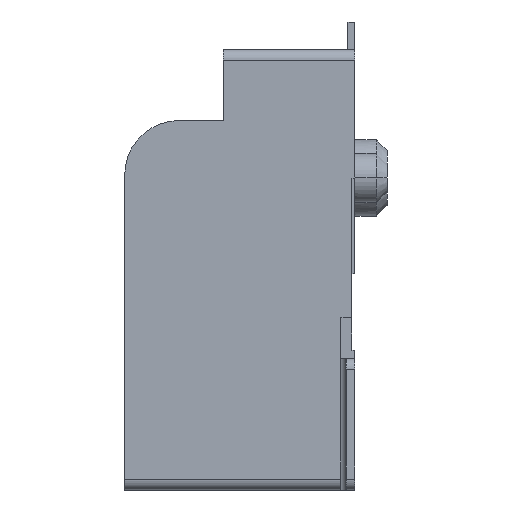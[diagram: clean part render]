
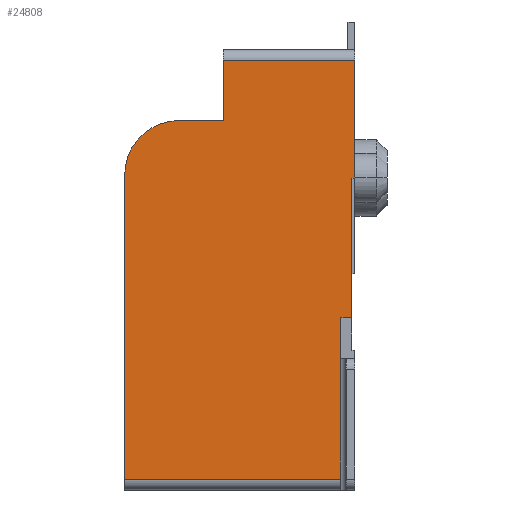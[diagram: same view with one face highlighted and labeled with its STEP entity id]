
A CAD part, left-side view. The second image highlights one B-rep face of the part: STEP entity #24808.
In plain terms, the highlighted planar face has unit normal (-1, 0, 0).
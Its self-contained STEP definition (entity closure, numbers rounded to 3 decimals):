
#1=CARTESIAN_POINT('',(-11.,3.2,1.8));
#2=DIRECTION('',(1.,0.,0.));
#3=DIRECTION('',(0.,1.,0.));
#4=AXIS2_PLACEMENT_3D('',#1,#2,#3);
#563=DIRECTION('',(0.,0.,-1.));
#564=VECTOR('',#563,2.95);
#565=CARTESIAN_POINT('',(-11.,0.25,-0.8));
#566=LINE('',#565,#564);
#4281=DIRECTION('',(0.,0.,-1.));
#4282=VECTOR('',#4281,2.55);
#4283=CARTESIAN_POINT('',(-11.,0.05,1.75));
#4284=LINE('',#4283,#4282);
#4311=DIRECTION('',(0.,0.,-1.));
#4312=VECTOR('',#4311,2.15);
#4313=CARTESIAN_POINT('',(-11.,0.,3.9));
#4314=LINE('',#4313,#4312);
#4397=DIRECTION('',(0.,-1.,0.));
#4398=VECTOR('',#4397,0.05);
#4399=CARTESIAN_POINT('',(-11.,0.05,1.75));
#4400=LINE('',#4399,#4398);
#4409=DIRECTION('',(0.,1.,0.));
#4410=VECTOR('',#4409,2.4);
#4411=CARTESIAN_POINT('',(-11.,0.,3.9));
#4412=LINE('',#4411,#4410);
#4422=DIRECTION('',(0.,0.,1.));
#4423=VECTOR('',#4422,1.1);
#4424=CARTESIAN_POINT('',(-11.,2.4,2.8));
#4425=LINE('',#4424,#4423);
#8937=DIRECTION('',(0.,-1.,0.));
#8938=VECTOR('',#8937,0.8);
#8939=CARTESIAN_POINT('',(-11.,3.2,2.8));
#8940=LINE('',#8939,#8938);
#10014=DIRECTION('',(0.,0.,1.));
#10015=VECTOR('',#10014,5.55);
#10016=CARTESIAN_POINT('',(-11.,4.2,-3.75));
#10017=LINE('',#10016,#10015);
#10064=DIRECTION('',(0.,-1.,0.));
#10065=VECTOR('',#10064,3.95);
#10066=CARTESIAN_POINT('',(-11.,4.2,-3.75));
#10067=LINE('',#10066,#10065);
#18831=DIRECTION('',(0.,-1.,0.));
#18832=VECTOR('',#18831,0.2);
#18833=CARTESIAN_POINT('',(-11.,0.25,-0.8));
#18834=LINE('',#18833,#18832);
#21764=CARTESIAN_POINT('',(-11.,0.25,-0.8));
#21765=CARTESIAN_POINT('',(-11.,0.25,-3.75));
#21766=VERTEX_POINT('',#21764);
#21767=VERTEX_POINT('',#21765);
#21768=CARTESIAN_POINT('',(-11.,0.05,-0.8));
#21769=VERTEX_POINT('',#21768);
#21770=CARTESIAN_POINT('',(-11.,0.05,1.75));
#21771=VERTEX_POINT('',#21770);
#21772=CARTESIAN_POINT('',(-11.,0.,1.75));
#21773=VERTEX_POINT('',#21772);
#21774=CARTESIAN_POINT('',(-11.,0.,3.9));
#21775=VERTEX_POINT('',#21774);
#21776=CARTESIAN_POINT('',(-11.,2.4,3.9));
#21777=VERTEX_POINT('',#21776);
#21778=CARTESIAN_POINT('',(-11.,2.4,2.8));
#21779=VERTEX_POINT('',#21778);
#21780=CARTESIAN_POINT('',(-11.,3.2,2.8));
#21781=VERTEX_POINT('',#21780);
#21782=CARTESIAN_POINT('',(-11.,4.2,1.8));
#21783=VERTEX_POINT('',#21782);
#21784=CARTESIAN_POINT('',(-11.,4.2,-3.75));
#21785=VERTEX_POINT('',#21784);
#24779=CARTESIAN_POINT('',(-11.,2.1,0.075));
#24780=DIRECTION('',(1.,0.,0.));
#24781=DIRECTION('',(0.,0.,-1.));
#24782=AXIS2_PLACEMENT_3D('',#24779,#24780,#24781);
#24783=PLANE('',#24782);
#24785=ORIENTED_EDGE('',*,*,#24784,.T.);
#24787=ORIENTED_EDGE('',*,*,#24786,.F.);
#24789=ORIENTED_EDGE('',*,*,#24788,.T.);
#24791=ORIENTED_EDGE('',*,*,#24790,.T.);
#24793=ORIENTED_EDGE('',*,*,#24792,.T.);
#24795=ORIENTED_EDGE('',*,*,#24794,.T.);
#24797=ORIENTED_EDGE('',*,*,#24796,.F.);
#24799=ORIENTED_EDGE('',*,*,#24798,.T.);
#24801=ORIENTED_EDGE('',*,*,#24800,.F.);
#24803=ORIENTED_EDGE('',*,*,#24802,.T.);
#24805=ORIENTED_EDGE('',*,*,#24804,.F.);
#24806=EDGE_LOOP('',(#24785,#24787,#24789,#24791,#24793,#24795,#24797,#24799,
#24801,#24803,#24805));
#24807=FACE_OUTER_BOUND('',#24806,.F.);
#24808=ADVANCED_FACE('',(#24807),#24783,.F.);
#5=CIRCLE('',#4,1.);
#24784=EDGE_CURVE('',#21766,#21767,#566,.T.);
#24786=EDGE_CURVE('',#21785,#21767,#10067,.T.);
#24788=EDGE_CURVE('',#21785,#21783,#10017,.T.);
#24790=EDGE_CURVE('',#21783,#21781,#5,.T.);
#24792=EDGE_CURVE('',#21781,#21779,#8940,.T.);
#24794=EDGE_CURVE('',#21779,#21777,#4425,.T.);
#24796=EDGE_CURVE('',#21775,#21777,#4412,.T.);
#24798=EDGE_CURVE('',#21775,#21773,#4314,.T.);
#24800=EDGE_CURVE('',#21771,#21773,#4400,.T.);
#24802=EDGE_CURVE('',#21771,#21769,#4284,.T.);
#24804=EDGE_CURVE('',#21766,#21769,#18834,.T.);
